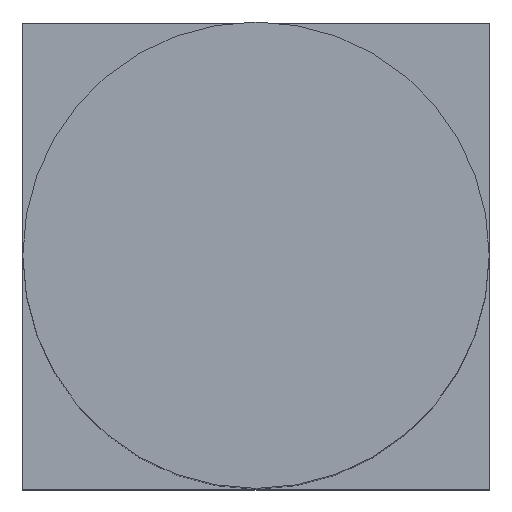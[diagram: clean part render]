
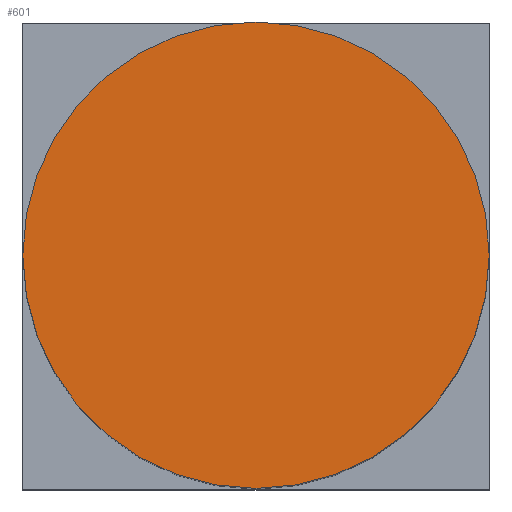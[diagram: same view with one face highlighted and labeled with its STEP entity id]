
A CAD part, top view. The second image highlights one B-rep face of the part: STEP entity #601.
In plain terms, the highlighted planar face has unit normal (0, 0, 1).
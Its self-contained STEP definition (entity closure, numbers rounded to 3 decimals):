
#516 = VERTEX_POINT('',#517);
#517 = CARTESIAN_POINT('',(6.,0.,24.));
#524 = CYLINDRICAL_SURFACE('',#525,6.);
#525 = AXIS2_PLACEMENT_3D('',#526,#527,#528);
#526 = CARTESIAN_POINT('',(0.,0.,11.));
#527 = DIRECTION('',(-0.,-0.,-1.));
#528 = DIRECTION('',(1.,0.,0.));
#543 = EDGE_CURVE('',#516,#516,#544,.T.);
#544 = SURFACE_CURVE('',#545,(#550,#557),.PCURVE_S1.);
#545 = CIRCLE('',#546,6.);
#546 = AXIS2_PLACEMENT_3D('',#547,#548,#549);
#547 = CARTESIAN_POINT('',(0.,0.,24.));
#548 = DIRECTION('',(0.,0.,1.));
#549 = DIRECTION('',(1.,0.,0.));
#550 = PCURVE('',#524,#551);
#551 = DEFINITIONAL_REPRESENTATION('',(#552),#556);
#552 = LINE('',#553,#554);
#553 = CARTESIAN_POINT('',(-0.,-13.));
#554 = VECTOR('',#555,1.);
#555 = DIRECTION('',(-1.,0.));
#556 = ( GEOMETRIC_REPRESENTATION_CONTEXT(2) 
PARAMETRIC_REPRESENTATION_CONTEXT() REPRESENTATION_CONTEXT('2D SPACE',''
  ) );
#557 = PCURVE('',#558,#563);
#558 = PLANE('',#559);
#559 = AXIS2_PLACEMENT_3D('',#560,#561,#562);
#560 = CARTESIAN_POINT('',(0.,0.,24.));
#561 = DIRECTION('',(0.,0.,1.));
#562 = DIRECTION('',(1.,0.,-0.));
#563 = DEFINITIONAL_REPRESENTATION('',(#564),#568);
#564 = CIRCLE('',#565,6.);
#565 = AXIS2_PLACEMENT_2D('',#566,#567);
#566 = CARTESIAN_POINT('',(0.,0.));
#567 = DIRECTION('',(1.,0.));
#568 = ( GEOMETRIC_REPRESENTATION_CONTEXT(2) 
PARAMETRIC_REPRESENTATION_CONTEXT() REPRESENTATION_CONTEXT('2D SPACE',''
  ) );
#601 = ADVANCED_FACE('',(#602),#558,.T.);
#602 = FACE_BOUND('',#603,.T.);
#603 = EDGE_LOOP('',(#604));
#604 = ORIENTED_EDGE('',*,*,#543,.T.);
